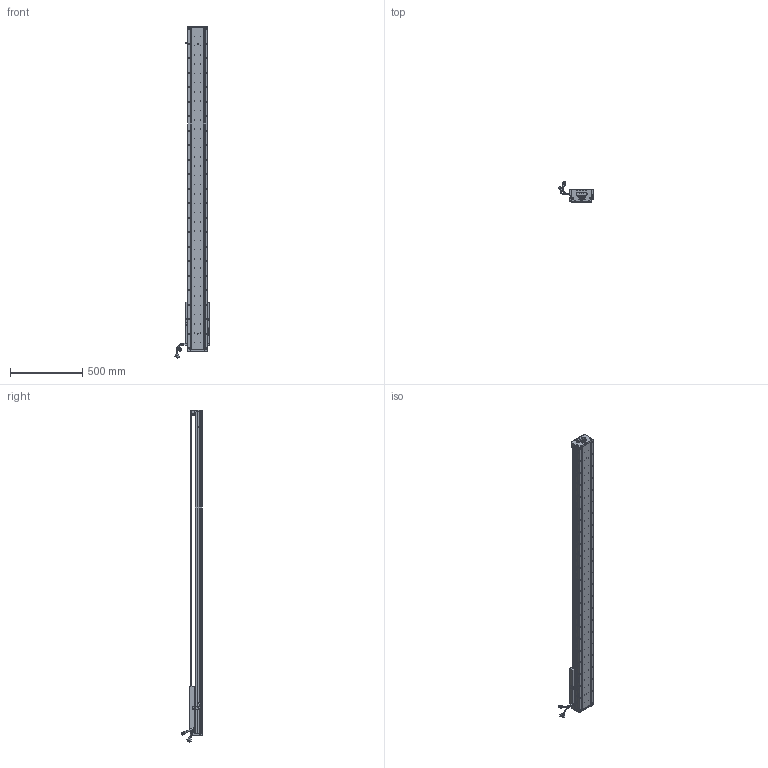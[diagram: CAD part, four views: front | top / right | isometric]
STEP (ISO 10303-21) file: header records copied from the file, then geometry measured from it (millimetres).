
FILE_DESCRIPTION (( 'STEP AP203' ), '1' );
FILE_NAME ('Z4-RY140D-1-L500-B-K.SLDASM_1850.step', '2021-05-17T08:17:44', ( '盈信电脑' ), ( '东莞市道滘镇水果街19号' ), 'SwSTEP 2.0', 'SolidWorks 2016', '' );
FILE_SCHEMA (( 'CONFIG_CONTROL_DESIGN' ));
Length unit declared in the file: millimetre
Products named in the file (36): SCREW-M1.6; Z4-RY140-L500詩湍100mm遵_1850; HARNESS-Part-2; Z-140詩湍傷裔啣; SCREW-M1.7-1; COVER; HOLDER0; 詩湍狟揤裔; 榋妏寠巭燃_暯_M2_2; SCALE-Part-1; SCALE; PBU_SHEET; 140雄赽晤鎢ん堤盄; SEAL-Part-1; SEAL; Z-RY140感应器672光电感应片; SCREW-M1.7; 覜茼ん672; SCREW-M1.6-2; SHIELDPLATE; LABEL; 140-Z-臏賑輸盄裔(21遴); PSLH080_PSLF2; LABEL-Part-1; Z4-RY140圉猾敕臏賑輸(21遴); Z4-RY140-L500直线电机模组底座_1850; HARNESS; 080黍杅芛假蚾釱21遴; SCREW-M1.6-1; Z4-RY140D-1-L500-B-K.SLDASM_1850; HARNESS-Part-1; SCALE-Part-2; 140蚥薯蝶輸; 詩湍奻揤裔; SCREW-M1.6-3; COVER-Part-1
Assembly tree (41 placements, depth 4):
  Z4-RY140D-1-L500-B-K.SLDASM_1850
    Z4-RY140-L500直线电机模组底座_1850
    Z-RY140感应器672光电感应片
    Z4-RY140圉猾敕臏賑輸(21遴)
    覜茼ん672  x3
    Z4-RY140-L500詩湍100mm遵_1850
    PSLH080_PSLF2
      SCALE
        SCALE-Part-1
        SCALE-Part-2
      HARNESS
        HARNESS-Part-1
        HARNESS-Part-2
      LABEL
        LABEL-Part-1
      COVER
        COVER-Part-1
      SEAL
        SEAL-Part-1
      榋妏寠巭燃_暯_M2_2
      SHIELDPLATE
      SCREW-M1.7
      SCREW-M1.7-1
      PBU_SHEET
      SCREW-M1.6
      SCREW-M1.6-1
      SCREW-M1.6-2
      SCREW-M1.6-3
      HOLDER0
    080黍杅芛假蚾釱21遴
    140-Z-臏賑輸盄裔(21遴)
    Z-140詩湍傷裔啣  x2
    詩湍狟揤裔  x2
    詩湍奻揤裔  x2
    140蚥薯蝶輸  x2
    140雄赽晤鎢ん堤盄
Bounding box: 239.84 x 143.88 x 2290.87 mm (x, y, z)
Volume: 7678703.4 mm3; surface area: 1978711.9 mm2
Topology: 36 solids, 36 shells, 3900 faces, 10562 edges, 6693 vertices
Faces by surface type: cylinder 2072, plane 1328, cone 378, torus 69, bspline 53
Entity records: 122462 total; most frequent: CARTESIAN_POINT 34159, ORIENTED_EDGE 18092, DIRECTION 16890, EDGE_CURVE 9046, AXIS2_PLACEMENT_3D 6272, VERTEX_POINT 5861, LINE 4346, VECTOR 4346
